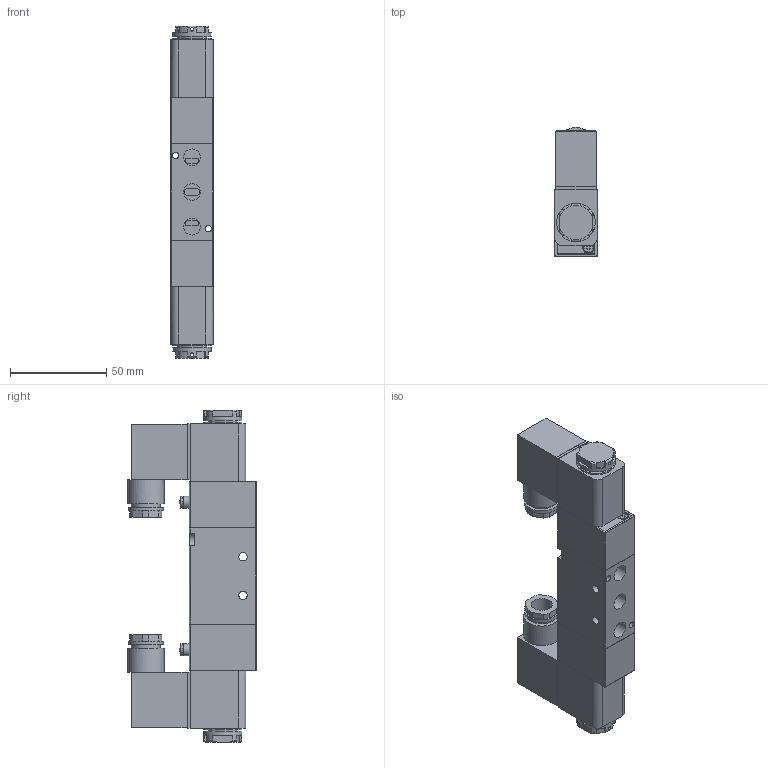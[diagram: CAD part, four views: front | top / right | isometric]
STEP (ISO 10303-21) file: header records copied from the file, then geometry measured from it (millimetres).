
FILE_DESCRIPTION(/* description */ (''),/* implementation_level */ '2;1');
FILE_NAME(/* name */ 'X:\Zeichnungen\3D\Basic-Line\Ventile\86-MV-5-28-520-M42.stp',/* time_stamp */ '2015-02-10T16:01:55+01:00',/* author */ ('Tschernatsch'),/* organization */ (''),/* preprocessor_version */ 'ST-DEVELOPER v15.2',/* originating_system */ 'Autodesk Inventor 2014',/* authorisation */ '');
FILE_SCHEMA (('AUTOMOTIVE_DESIGN { 1 0 10303 214 3 1 1 }'));
Length unit declared in the file: millimetre
Products named in the file (1): 5V220-06-DC24-Ôð+-+
Bounding box: 22 x 66.95 x 172.5 mm (x, y, z)
Volume: 157697.8 mm3; surface area: 33967.5 mm2
Topology: 1 solids, 1 shells, 425 faces, 1092 edges, 695 vertices
Faces by surface type: plane 318, cylinder 89, torus 14, cone 4
Full cylindrical faces by diameter (mm): 1.8 x2, 3.3 x2, 4.3 x2, 5.2 x4, 6 x2, 6.25 x2, 7 x2, 8.8 x5, 10.8 x2, 15 x2, 15.2 x2, 18.4 x2, 19 x2, 20 x4
Entity records: 12854 total; most frequent: CARTESIAN_POINT 2488, DIRECTION 2176, ORIENTED_EDGE 2088, EDGE_CURVE 1044, AXIS2_PLACEMENT_3D 740, LINE 696, VECTOR 696, VERTEX_POINT 684
